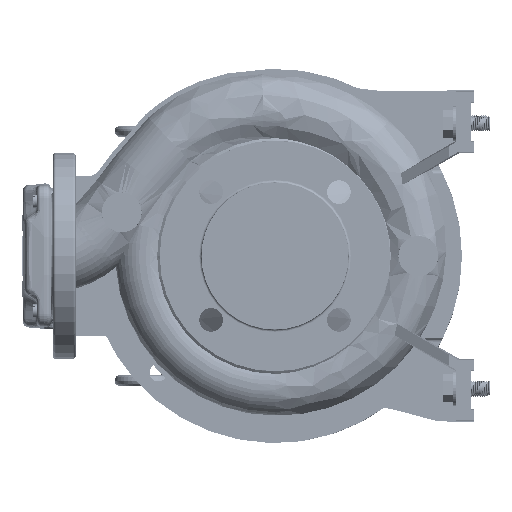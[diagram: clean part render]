
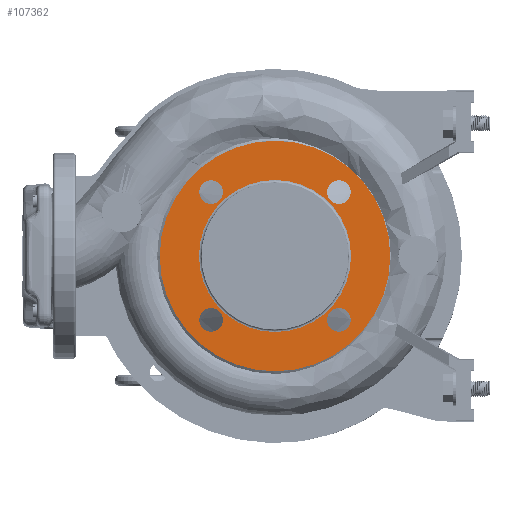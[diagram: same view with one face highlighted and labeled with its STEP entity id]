
A CAD part, left-side view. The second image highlights one B-rep face of the part: STEP entity #107362.
In plain terms, the highlighted planar face has unit normal (-1, 0, 0).
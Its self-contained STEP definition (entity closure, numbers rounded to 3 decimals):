
#852 = AXIS2_PLACEMENT_3D ( 'NONE', #89994, #49999, #154644 ) ;
#976 = DIRECTION ( 'NONE',  ( -1., 0., 0. ) ) ;
#2951 = CIRCLE ( 'NONE', #122507, 9.5 ) ;
#6420 = DIRECTION ( 'NONE',  ( -1., 0., 0. ) ) ;
#9344 = DIRECTION ( 'NONE',  ( -1., 0., 0. ) ) ;
#11484 = VERTEX_POINT ( 'NONE', #107500 ) ;
#12538 = FACE_OUTER_BOUND ( 'NONE', #94698, .T. ) ;
#14037 = EDGE_LOOP ( 'NONE', ( #106278, #101945 ) ) ;
#16942 = CARTESIAN_POINT ( 'NONE',  ( -69.829, 218.107, 224.977 ) ) ;
#17123 = VERTEX_POINT ( 'NONE', #161182 ) ;
#18130 = EDGE_LOOP ( 'NONE', ( #151420, #88695 ) ) ;
#19747 = DIRECTION ( 'NONE',  ( -1., 0., 0. ) ) ;
#24454 = FACE_BOUND ( 'NONE', #14037, .T. ) ;
#24902 = EDGE_CURVE ( 'NONE', #89445, #11484, #49858, .T. ) ;
#25308 = FACE_BOUND ( 'NONE', #18130, .T. ) ;
#26788 = CIRCLE ( 'NONE', #151754, 92.5 ) ;
#27771 = EDGE_LOOP ( 'NONE', ( #124791, #97702 ) ) ;
#30318 = CIRCLE ( 'NONE', #155463, 9.5 ) ;
#33885 = EDGE_CURVE ( 'NONE', #120933, #100215, #163310, .T. ) ;
#36387 = DIRECTION ( 'NONE',  ( -1., 0., 0. ) ) ;
#37475 = CARTESIAN_POINT ( 'NONE',  ( -69.829, 176.342, 276.242 ) ) ;
#37740 = EDGE_CURVE ( 'NONE', #100215, #120933, #112081, .T. ) ;
#37915 = DIRECTION ( 'NONE',  ( -1., 0., 0. ) ) ;
#38339 = DIRECTION ( 'NONE',  ( -1., 0., 0. ) ) ;
#38445 = VERTEX_POINT ( 'NONE', #93993 ) ;
#40106 = DIRECTION ( 'NONE',  ( 0., -1., 0. ) ) ;
#41453 = CIRCLE ( 'NONE', #128292, 9.5 ) ;
#42321 = ORIENTED_EDGE ( 'NONE', *, *, #150087, .F. ) ;
#46411 = VERTEX_POINT ( 'NONE', #16942 ) ;
#49049 = EDGE_CURVE ( 'NONE', #46411, #143567, #129968, .T. ) ;
#49858 = CIRCLE ( 'NONE', #153219, 92.5 ) ;
#49999 = DIRECTION ( 'NONE',  ( 1., 0., 0. ) ) ;
#51678 = FACE_BOUND ( 'NONE', #91259, .T. ) ;
#52214 = EDGE_CURVE ( 'NONE', #82114, #38445, #149582, .T. ) ;
#52775 = DIRECTION ( 'NONE',  ( -1., 0., 0. ) ) ;
#55103 = AXIS2_PLACEMENT_3D ( 'NONE', #152953, #36387, #114676 ) ;
#58080 = CARTESIAN_POINT ( 'NONE',  ( -69.829, 218.107, 327.507 ) ) ;
#58330 = DIRECTION ( 'NONE',  ( 0., -1., 0. ) ) ;
#60006 = ORIENTED_EDGE ( 'NONE', *, *, #24902, .T. ) ;
#60963 = CIRCLE ( 'NONE', #156086, 9.5 ) ;
#62755 = AXIS2_PLACEMENT_3D ( 'NONE', #153224, #38339, #88565 ) ;
#66142 = EDGE_CURVE ( 'NONE', #11484, #89445, #26788, .T. ) ;
#68130 = CARTESIAN_POINT ( 'NONE',  ( -69.829, 176.342, 276.242 ) ) ;
#69927 = CARTESIAN_POINT ( 'NONE',  ( -69.829, 125.077, 224.977 ) ) ;
#70333 = AXIS2_PLACEMENT_3D ( 'NONE', #92160, #78502, #115170 ) ;
#73596 = CARTESIAN_POINT ( 'NONE',  ( -69.829, 115.342, 276.242 ) ) ;
#74659 = FACE_BOUND ( 'NONE', #27771, .T. ) ;
#76768 = CARTESIAN_POINT ( 'NONE',  ( -69.829, 237.342, 276.242 ) ) ;
#78502 = DIRECTION ( 'NONE',  ( -1., 0., 0. ) ) ;
#79556 = CARTESIAN_POINT ( 'NONE',  ( -69.829, 237.107, 327.507 ) ) ;
#82114 = VERTEX_POINT ( 'NONE', #138114 ) ;
#84254 = DIRECTION ( 'NONE',  ( 0., 0., -1. ) ) ;
#86071 = DIRECTION ( 'NONE',  ( 0., 1., 0. ) ) ;
#86290 = DIRECTION ( 'NONE',  ( 0., 0., 1. ) ) ;
#87389 = CARTESIAN_POINT ( 'NONE',  ( -69.829, 268.842, 276.242 ) ) ;
#88565 = DIRECTION ( 'NONE',  ( 0., -1., 0. ) ) ;
#88695 = ORIENTED_EDGE ( 'NONE', *, *, #100039, .F. ) ;
#89404 = DIRECTION ( 'NONE',  ( 0., -1., 0. ) ) ;
#89445 = VERTEX_POINT ( 'NONE', #87389 ) ;
#89994 = CARTESIAN_POINT ( 'NONE',  ( -69.829, 237.342, 276.242 ) ) ;
#91259 = EDGE_LOOP ( 'NONE', ( #151653, #166787 ) ) ;
#92160 = CARTESIAN_POINT ( 'NONE',  ( -69.829, 125.077, 224.977 ) ) ;
#93993 = CARTESIAN_POINT ( 'NONE',  ( -69.829, 115.577, 327.507 ) ) ;
#94698 = EDGE_LOOP ( 'NONE', ( #152421, #60006 ) ) ;
#97643 = VERTEX_POINT ( 'NONE', #110441 ) ;
#97702 = ORIENTED_EDGE ( 'NONE', *, *, #33885, .F. ) ;
#100039 = EDGE_CURVE ( 'NONE', #148375, #109351, #41453, .T. ) ;
#100215 = VERTEX_POINT ( 'NONE', #73596 ) ;
#101945 = ORIENTED_EDGE ( 'NONE', *, *, #108770, .F. ) ;
#102476 = CARTESIAN_POINT ( 'NONE',  ( -69.829, 125.077, 327.507 ) ) ;
#106278 = ORIENTED_EDGE ( 'NONE', *, *, #49049, .F. ) ;
#107362 = ADVANCED_FACE ( 'NONE', ( #51678, #152110, #24454, #25308, #74659, #12538 ), #155484, .F. ) ;
#107500 = CARTESIAN_POINT ( 'NONE',  ( -69.829, 83.842, 276.242 ) ) ;
#107534 = EDGE_LOOP ( 'NONE', ( #136385, #42321 ) ) ;
#108770 = EDGE_CURVE ( 'NONE', #143567, #46411, #60963, .T. ) ;
#109351 = VERTEX_POINT ( 'NONE', #58080 ) ;
#110441 = CARTESIAN_POINT ( 'NONE',  ( -69.829, 115.577, 224.977 ) ) ;
#112081 = CIRCLE ( 'NONE', #55103, 61. ) ;
#113579 = DIRECTION ( 'NONE',  ( 0., 0., -1. ) ) ;
#114528 = DIRECTION ( 'NONE',  ( 0., -1., 0. ) ) ;
#114676 = DIRECTION ( 'NONE',  ( 0., -1., 0. ) ) ;
#115170 = DIRECTION ( 'NONE',  ( 0., 1., 0. ) ) ;
#119104 = EDGE_CURVE ( 'NONE', #38445, #82114, #2951, .T. ) ;
#120933 = VERTEX_POINT ( 'NONE', #76768 ) ;
#122507 = AXIS2_PLACEMENT_3D ( 'NONE', #125954, #9344, #84254 ) ;
#123046 = CARTESIAN_POINT ( 'NONE',  ( -69.829, 227.607, 327.507 ) ) ;
#123973 = EDGE_CURVE ( 'NONE', #109351, #148375, #30318, .T. ) ;
#124791 = ORIENTED_EDGE ( 'NONE', *, *, #37740, .F. ) ;
#125219 = AXIS2_PLACEMENT_3D ( 'NONE', #102476, #165453, #113579 ) ;
#125566 = AXIS2_PLACEMENT_3D ( 'NONE', #69927, #19747, #86071 ) ;
#125888 = DIRECTION ( 'NONE',  ( 0., 0., 1. ) ) ;
#125954 = CARTESIAN_POINT ( 'NONE',  ( -69.829, 125.077, 327.507 ) ) ;
#128292 = AXIS2_PLACEMENT_3D ( 'NONE', #123046, #6420, #58330 ) ;
#129968 = CIRCLE ( 'NONE', #132740, 9.5 ) ;
#132740 = AXIS2_PLACEMENT_3D ( 'NONE', #138599, #153058, #125888 ) ;
#134941 = EDGE_CURVE ( 'NONE', #97643, #17123, #160019, .T. ) ;
#136385 = ORIENTED_EDGE ( 'NONE', *, *, #134941, .F. ) ;
#138114 = CARTESIAN_POINT ( 'NONE',  ( -69.829, 134.577, 327.507 ) ) ;
#138599 = CARTESIAN_POINT ( 'NONE',  ( -69.829, 227.607, 224.977 ) ) ;
#139865 = DIRECTION ( 'NONE',  ( -1., 0., 0. ) ) ;
#143567 = VERTEX_POINT ( 'NONE', #156826 ) ;
#148375 = VERTEX_POINT ( 'NONE', #79556 ) ;
#149582 = CIRCLE ( 'NONE', #125219, 9.5 ) ;
#150087 = EDGE_CURVE ( 'NONE', #17123, #97643, #163530, .T. ) ;
#151420 = ORIENTED_EDGE ( 'NONE', *, *, #123973, .F. ) ;
#151653 = ORIENTED_EDGE ( 'NONE', *, *, #119104, .F. ) ;
#151754 = AXIS2_PLACEMENT_3D ( 'NONE', #37475, #52775, #89404 ) ;
#152110 = FACE_BOUND ( 'NONE', #107534, .T. ) ;
#152421 = ORIENTED_EDGE ( 'NONE', *, *, #66142, .T. ) ;
#152633 = CARTESIAN_POINT ( 'NONE',  ( -69.829, 227.607, 224.977 ) ) ;
#152953 = CARTESIAN_POINT ( 'NONE',  ( -69.829, 176.342, 276.242 ) ) ;
#153058 = DIRECTION ( 'NONE',  ( -1., 0., 0. ) ) ;
#153219 = AXIS2_PLACEMENT_3D ( 'NONE', #68130, #976, #40106 ) ;
#153224 = CARTESIAN_POINT ( 'NONE',  ( -69.829, 176.342, 276.242 ) ) ;
#154486 = CARTESIAN_POINT ( 'NONE',  ( -69.829, 227.607, 327.507 ) ) ;
#154644 = DIRECTION ( 'NONE',  ( 0., 1., 0. ) ) ;
#155463 = AXIS2_PLACEMENT_3D ( 'NONE', #154486, #37915, #114528 ) ;
#155484 = PLANE ( 'NONE',  #852 ) ;
#156086 = AXIS2_PLACEMENT_3D ( 'NONE', #152633, #139865, #86290 ) ;
#156826 = CARTESIAN_POINT ( 'NONE',  ( -69.829, 237.107, 224.977 ) ) ;
#160019 = CIRCLE ( 'NONE', #70333, 9.5 ) ;
#161182 = CARTESIAN_POINT ( 'NONE',  ( -69.829, 134.577, 224.977 ) ) ;
#163310 = CIRCLE ( 'NONE', #62755, 61. ) ;
#163530 = CIRCLE ( 'NONE', #125566, 9.5 ) ;
#165453 = DIRECTION ( 'NONE',  ( -1., 0., 0. ) ) ;
#166787 = ORIENTED_EDGE ( 'NONE', *, *, #52214, .F. ) ;
